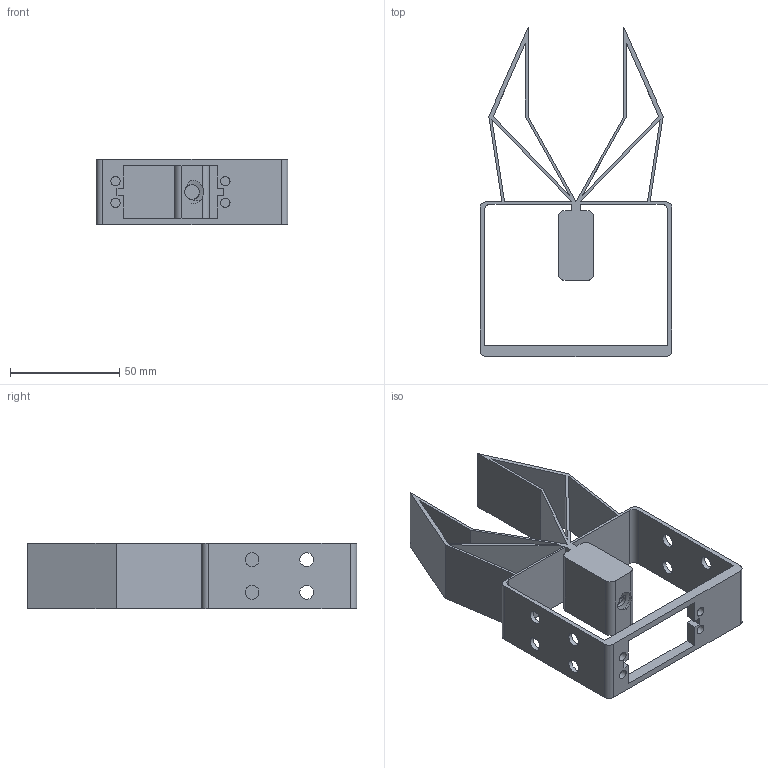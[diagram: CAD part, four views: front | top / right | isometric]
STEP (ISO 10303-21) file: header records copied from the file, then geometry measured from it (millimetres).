
FILE_DESCRIPTION(/* description */ ('STEP AP242 Edition 2','CAx-IF Rec.Pracs.---Representation and Presentation of Product Manufacturing Information (PMI)---4.0---2014-10-13','CAx-IF Rec.Pracs.---3D Tessellated Geometry---0.4---2014-09-14','2;1','CAx-IF Rec.Pracs.---User Defined Attributes---1.5---2016-08-15'),/* implementation_level */ '2;1');
FILE_NAME(/* name */ 'Assembly 1 - Part 1',/* time_stamp */ '2026-08-25T12:58:24Z',/* author */ (''),/* organization */ (''),/* preprocessor_version */ 'ST-DEVELOPER v20',/* originating_system */ 'ONSHAPE BY PTC INC, 1.219',/* authorisation */ ' ');
FILE_SCHEMA (('AP242_MANAGED_MODEL_BASED_3D_ENGINEERING_MIM_LF { 1 0 10303 442 3 1 4 }'));
Length unit declared in the file: metre
Products named in the file (1): Part 1
Bounding box: 88 x 151.1 x 30 mm (x, y, z)
Volume: 49150.8 mm3; surface area: 49778.8 mm2
Topology: 1 solids, 1 shells, 80 faces, 240 edges, 162 vertices
Faces by surface type: plane 54, cylinder 24, bspline 2
Full cylindrical faces by diameter (mm): 4.3 x4, 6.3 x8
Entity records: 3496 total; most frequent: CARTESIAN_POINT 1304, ORIENTED_EDGE 444, DIRECTION 420, EDGE_CURVE 222, LINE 164, VECTOR 164, VERTEX_POINT 156, EDGE_LOOP 128
